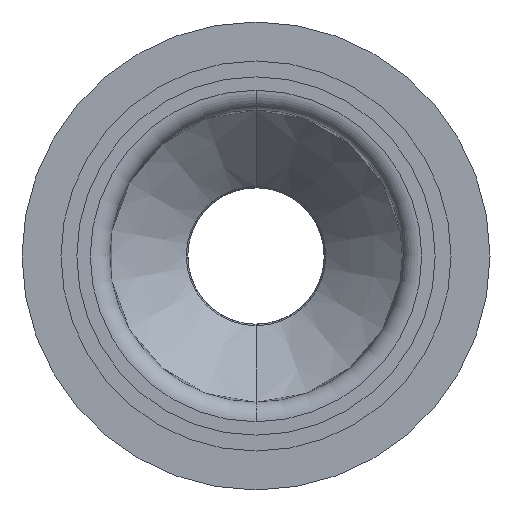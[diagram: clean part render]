
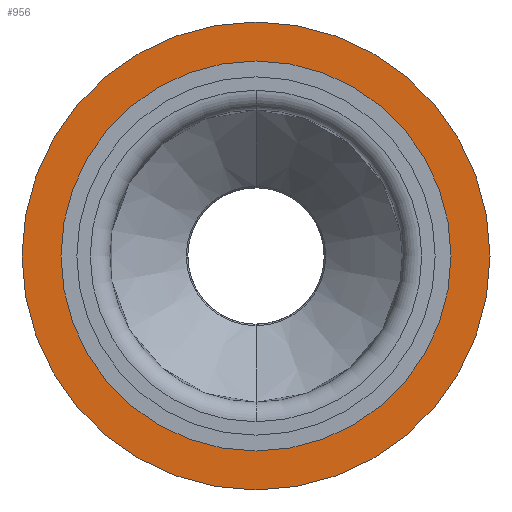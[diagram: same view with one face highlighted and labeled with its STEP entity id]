
A CAD part, front view. The second image highlights one B-rep face of the part: STEP entity #956.
In plain terms, the highlighted planar face has unit normal (0, -1, 0).
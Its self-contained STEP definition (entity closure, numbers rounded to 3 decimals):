
#197 = DIRECTION ( 'NONE',  ( 0., 1., 0. ) ) ;
#394 = AXIS2_PLACEMENT_3D ( 'NONE', #4280, #5723, #4772 ) ;
#593 = EDGE_CURVE ( 'NONE', #2176, #3790, #1084, .T. ) ;
#811 = ORIENTED_EDGE ( 'NONE', *, *, #841, .T. ) ;
#839 = CIRCLE ( 'NONE', #1979, 12. ) ;
#841 = EDGE_CURVE ( 'NONE', #3790, #2176, #839, .T. ) ;
#859 = DIRECTION ( 'NONE',  ( 0., -1., 0. ) ) ;
#952 = CIRCLE ( 'NONE', #4651, 3.567 ) ;
#956 = ADVANCED_FACE ( 'NONE', ( #4813, #2129 ), #3980, .T. ) ;
#974 = EDGE_LOOP ( 'NONE', ( #4881, #6119 ) ) ;
#1084 = CIRCLE ( 'NONE', #3609, 12. ) ;
#1108 = ORIENTED_EDGE ( 'NONE', *, *, #593, .T. ) ;
#1390 = DIRECTION ( 'NONE',  ( 0., 0., -1. ) ) ;
#1393 = AXIS2_PLACEMENT_3D ( 'NONE', #2204, #197, #1727 ) ;
#1400 = VERTEX_POINT ( 'NONE', #6303 ) ;
#1491 = DIRECTION ( 'NONE',  ( 0., 1., 0. ) ) ;
#1669 = DIRECTION ( 'NONE',  ( 0., -1., 0. ) ) ;
#1727 = DIRECTION ( 'NONE',  ( 0., 0., -1. ) ) ;
#1979 = AXIS2_PLACEMENT_3D ( 'NONE', #3418, #859, #1390 ) ;
#2001 = CIRCLE ( 'NONE', #1393, 3.567 ) ;
#2129 = FACE_OUTER_BOUND ( 'NONE', #3200, .T. ) ;
#2176 = VERTEX_POINT ( 'NONE', #2267 ) ;
#2204 = CARTESIAN_POINT ( 'NONE',  ( -369.933, -8708.459, 0. ) ) ;
#2209 = DIRECTION ( 'NONE',  ( 0., 0., -1. ) ) ;
#2267 = CARTESIAN_POINT ( 'NONE',  ( -369.933, -8708.459, -12. ) ) ;
#2531 = EDGE_CURVE ( 'NONE', #1400, #3432, #952, .T. ) ;
#2591 = CARTESIAN_POINT ( 'NONE',  ( -369.933, -8708.459, -3.567 ) ) ;
#3053 = CARTESIAN_POINT ( 'NONE',  ( -369.933, -8708.459, 0. ) ) ;
#3200 = EDGE_LOOP ( 'NONE', ( #1108, #811 ) ) ;
#3418 = CARTESIAN_POINT ( 'NONE',  ( -369.933, -8708.459, 0. ) ) ;
#3432 = VERTEX_POINT ( 'NONE', #2591 ) ;
#3609 = AXIS2_PLACEMENT_3D ( 'NONE', #6225, #1669, #2209 ) ;
#3790 = VERTEX_POINT ( 'NONE', #3924 ) ;
#3924 = CARTESIAN_POINT ( 'NONE',  ( -369.933, -8708.459, 12. ) ) ;
#3980 = PLANE ( 'NONE',  #394 ) ;
#4280 = CARTESIAN_POINT ( 'NONE',  ( 0., -8708.459, 0. ) ) ;
#4651 = AXIS2_PLACEMENT_3D ( 'NONE', #3053, #1491, #5586 ) ;
#4772 = DIRECTION ( 'NONE',  ( 0., 0., -1. ) ) ;
#4813 = FACE_BOUND ( 'NONE', #974, .T. ) ;
#4881 = ORIENTED_EDGE ( 'NONE', *, *, #5430, .T. ) ;
#5430 = EDGE_CURVE ( 'NONE', #3432, #1400, #2001, .T. ) ;
#5586 = DIRECTION ( 'NONE',  ( 0., 0., -1. ) ) ;
#5723 = DIRECTION ( 'NONE',  ( 0., -1., 0. ) ) ;
#6119 = ORIENTED_EDGE ( 'NONE', *, *, #2531, .T. ) ;
#6225 = CARTESIAN_POINT ( 'NONE',  ( -369.933, -8708.459, 0. ) ) ;
#6303 = CARTESIAN_POINT ( 'NONE',  ( -369.933, -8708.459, 3.567 ) ) ;
